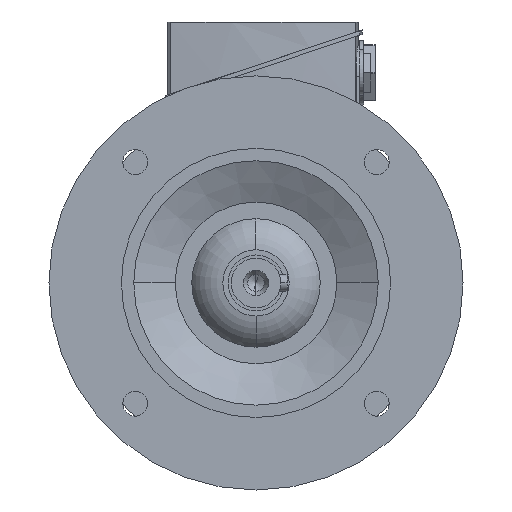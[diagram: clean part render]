
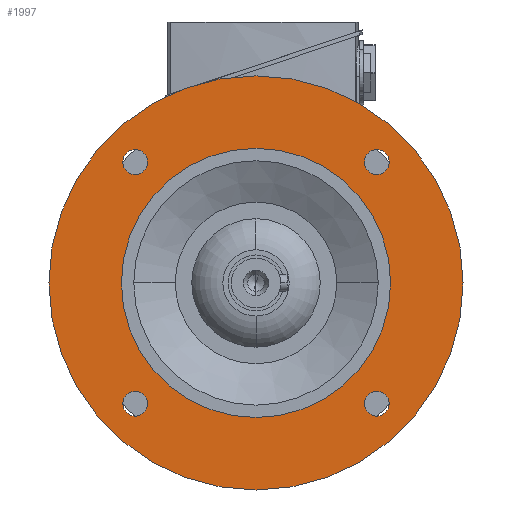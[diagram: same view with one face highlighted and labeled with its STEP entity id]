
A CAD part, left-side view. The second image highlights one B-rep face of the part: STEP entity #1997.
In plain terms, the highlighted planar face has unit normal (-1, 0, 0).
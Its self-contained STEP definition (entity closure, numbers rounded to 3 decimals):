
#1997=ADVANCED_FACE('',(#4030,#4031,#4032,#4033,#4034,#4035),#4036,.T.);
#4030=FACE_BOUND('',#6067,.T.);
#4031=FACE_BOUND('',#6068,.T.);
#4032=FACE_BOUND('',#6069,.T.);
#4033=FACE_BOUND('',#6070,.T.);
#4034=FACE_OUTER_BOUND('',#6071,.T.);
#4035=FACE_BOUND('',#6072,.T.);
#4036=PLANE('',#6073);
#6067=EDGE_LOOP('',(#12385,#12386));
#6068=EDGE_LOOP('',(#12387,#12388));
#6069=EDGE_LOOP('',(#12389,#12390));
#6070=EDGE_LOOP('',(#12391,#12392));
#6071=EDGE_LOOP('',(#12393,#12394));
#6072=EDGE_LOOP('',(#12395,#12396));
#6073=AXIS2_PLACEMENT_3D('',#12397,#12398,#12399);
#12385=ORIENTED_EDGE('',*,*,#14902,.T.);
#12386=ORIENTED_EDGE('',*,*,#12500,.T.);
#12387=ORIENTED_EDGE('',*,*,#14905,.T.);
#12388=ORIENTED_EDGE('',*,*,#12495,.T.);
#12389=ORIENTED_EDGE('',*,*,#14908,.T.);
#12390=ORIENTED_EDGE('',*,*,#12490,.T.);
#12391=ORIENTED_EDGE('',*,*,#14911,.T.);
#12392=ORIENTED_EDGE('',*,*,#12485,.T.);
#12393=ORIENTED_EDGE('',*,*,#12469,.F.);
#12394=ORIENTED_EDGE('',*,*,#14955,.F.);
#12395=ORIENTED_EDGE('',*,*,#12476,.T.);
#12396=ORIENTED_EDGE('',*,*,#14953,.T.);
#12397=CARTESIAN_POINT('',(-34.5,82.5,0.0));
#12398=DIRECTION('',(-1.0,0.0,0.0));
#12399=DIRECTION('',(0.0,-1.0,0.0));
#12469=EDGE_CURVE('',#14996,#14999,#15000,.T.);
#12476=EDGE_CURVE('',#15006,#15010,#15012,.T.);
#12485=EDGE_CURVE('',#15028,#15025,#15029,.T.);
#12490=EDGE_CURVE('',#15037,#15034,#15038,.T.);
#12495=EDGE_CURVE('',#15046,#15043,#15047,.T.);
#12500=EDGE_CURVE('',#15055,#15052,#15056,.T.);
#14902=EDGE_CURVE('',#15052,#15055,#18635,.T.);
#14905=EDGE_CURVE('',#15043,#15046,#18638,.T.);
#14908=EDGE_CURVE('',#15034,#15037,#18641,.T.);
#14911=EDGE_CURVE('',#15025,#15028,#18644,.T.);
#14953=EDGE_CURVE('',#15010,#15006,#18697,.T.);
#14955=EDGE_CURVE('',#14999,#14996,#18699,.T.);
#14996=VERTEX_POINT('',#18744);
#14999=VERTEX_POINT('',#18748);
#15000=CIRCLE('',#18749,100.0);
#15006=VERTEX_POINT('',#18756);
#15010=VERTEX_POINT('',#18761);
#15012=CIRCLE('',#18764,65.0);
#15025=VERTEX_POINT('',#18782);
#15028=VERTEX_POINT('',#18786);
#15029=CIRCLE('',#18787,6.0);
#15034=VERTEX_POINT('',#18793);
#15037=VERTEX_POINT('',#18797);
#15038=CIRCLE('',#18798,6.0);
#15043=VERTEX_POINT('',#18804);
#15046=VERTEX_POINT('',#18808);
#15047=CIRCLE('',#18809,6.0);
#15052=VERTEX_POINT('',#18815);
#15055=VERTEX_POINT('',#18819);
#15056=CIRCLE('',#18820,6.0);
#18635=CIRCLE('',#25024,6.0);
#18638=CIRCLE('',#25027,6.0);
#18641=CIRCLE('',#25030,6.0);
#18644=CIRCLE('',#25033,6.0);
#18697=CIRCLE('',#25126,65.0);
#18699=CIRCLE('',#25128,100.0);
#18744=CARTESIAN_POINT('',(-34.5,100.0,0.0));
#18748=CARTESIAN_POINT('',(-34.5,-100.0,0.));
#18749=AXIS2_PLACEMENT_3D('',#25172,#25173,#25174);
#18756=CARTESIAN_POINT('',(-34.5,65.0,0.0));
#18761=CARTESIAN_POINT('',(-34.5,-65.0,0.));
#18764=AXIS2_PLACEMENT_3D('',#25184,#25185,#25186);
#18782=CARTESIAN_POINT('',(-34.5,-62.579,62.579));
#18786=CARTESIAN_POINT('',(-34.5,-54.094,54.094));
#18787=AXIS2_PLACEMENT_3D('',#25200,#25201,#25202);
#18793=CARTESIAN_POINT('',(-34.5,62.579,62.579));
#18797=CARTESIAN_POINT('',(-34.5,54.094,54.094));
#18798=AXIS2_PLACEMENT_3D('',#25208,#25209,#25210);
#18804=CARTESIAN_POINT('',(-34.5,62.579,-62.579));
#18808=CARTESIAN_POINT('',(-34.5,54.094,-54.094));
#18809=AXIS2_PLACEMENT_3D('',#25216,#25217,#25218);
#18815=CARTESIAN_POINT('',(-34.5,-62.579,-62.579));
#18819=CARTESIAN_POINT('',(-34.5,-54.094,-54.094));
#18820=AXIS2_PLACEMENT_3D('',#25224,#25225,#25226);
#25024=AXIS2_PLACEMENT_3D('',#27913,#27914,#27915);
#25027=AXIS2_PLACEMENT_3D('',#27919,#27920,#27921);
#25030=AXIS2_PLACEMENT_3D('',#27925,#27926,#27927);
#25033=AXIS2_PLACEMENT_3D('',#27931,#27932,#27933);
#25126=AXIS2_PLACEMENT_3D('',#27967,#27968,#27969);
#25128=AXIS2_PLACEMENT_3D('',#27970,#27971,#27972);
#25172=CARTESIAN_POINT('',(-34.5,0.0,0.0));
#25173=DIRECTION('',(1.0,0.0,0.0));
#25174=DIRECTION('',(0.0,1.0,0.0));
#25184=CARTESIAN_POINT('',(-34.5,0.0,0.0));
#25185=DIRECTION('',(1.0,0.0,0.0));
#25186=DIRECTION('',(0.0,1.0,0.0));
#25200=CARTESIAN_POINT('',(-34.5,-58.336,58.336));
#25201=DIRECTION('',(1.0,0.0,-0.0));
#25202=DIRECTION('',(0.0,-0.707,0.707));
#25208=CARTESIAN_POINT('',(-34.5,58.336,58.336));
#25209=DIRECTION('',(1.0,0.0,-0.0));
#25210=DIRECTION('',(0.0,0.707,0.707));
#25216=CARTESIAN_POINT('',(-34.5,58.336,-58.336));
#25217=DIRECTION('',(1.0,-0.0,0.0));
#25218=DIRECTION('',(0.0,0.707,-0.707));
#25224=CARTESIAN_POINT('',(-34.5,-58.336,-58.336));
#25225=DIRECTION('',(1.0,0.0,0.0));
#25226=DIRECTION('',(0.0,-0.707,-0.707));
#27913=CARTESIAN_POINT('',(-34.5,-58.336,-58.336));
#27914=DIRECTION('',(1.0,0.0,0.0));
#27915=DIRECTION('',(0.0,-0.707,-0.707));
#27919=CARTESIAN_POINT('',(-34.5,58.336,-58.336));
#27920=DIRECTION('',(1.0,-0.0,0.0));
#27921=DIRECTION('',(0.0,0.707,-0.707));
#27925=CARTESIAN_POINT('',(-34.5,58.336,58.336));
#27926=DIRECTION('',(1.0,0.0,-0.0));
#27927=DIRECTION('',(0.0,0.707,0.707));
#27931=CARTESIAN_POINT('',(-34.5,-58.336,58.336));
#27932=DIRECTION('',(1.0,0.0,-0.0));
#27933=DIRECTION('',(0.0,-0.707,0.707));
#27967=CARTESIAN_POINT('',(-34.5,0.0,0.0));
#27968=DIRECTION('',(1.0,0.0,0.0));
#27969=DIRECTION('',(0.0,1.0,0.0));
#27970=CARTESIAN_POINT('',(-34.5,0.0,0.0));
#27971=DIRECTION('',(1.0,0.0,0.0));
#27972=DIRECTION('',(0.0,1.0,0.0));
